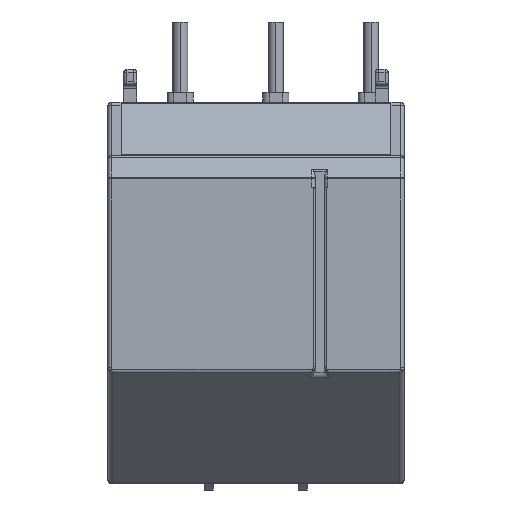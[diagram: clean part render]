
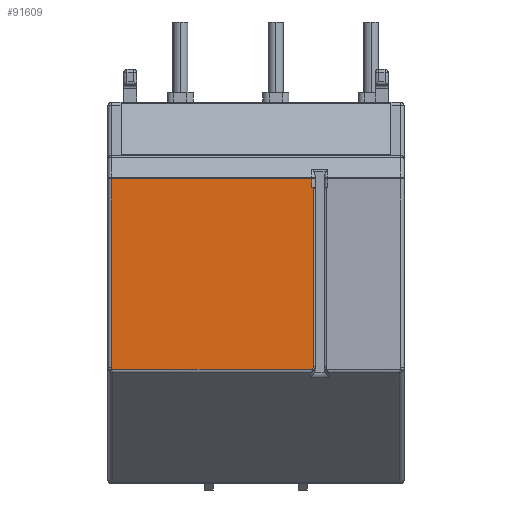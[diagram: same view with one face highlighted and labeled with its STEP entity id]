
A CAD part, front view. The second image highlights one B-rep face of the part: STEP entity #91609.
In plain terms, the highlighted planar face has unit normal (0, -1, 0).
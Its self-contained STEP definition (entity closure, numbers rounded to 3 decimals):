
#7681=DIRECTION('',(0.,0.,-1.));
#7682=VECTOR('',#7681,28.704);
#7683=CARTESIAN_POINT('',(0.5,-77.5,30.664));
#7684=LINE('',#7683,#7682);
#7706=CARTESIAN_POINT('',(0.5,-77.5,
1.959));
#16133=CARTESIAN_POINT('',(31.2,-77.5,29.4));
#16249=DIRECTION('',(-1.,0.,0.));
#16250=VECTOR('',#16249,30.5);
#16251=CARTESIAN_POINT('',(31.,-77.5,30.664));
#16252=LINE('',#16251,#16250);
#16253=DIRECTION('',(0.,0.,1.));
#16254=VECTOR('',#16253,1.264);
#16255=CARTESIAN_POINT('',(31.,-77.5,29.4));
#16256=LINE('',#16255,#16254);
#16257=DIRECTION('',(1.,0.,0.));
#16258=VECTOR('',#16257,0.2);
#16259=CARTESIAN_POINT('',(31.,-77.5,29.4));
#16260=LINE('',#16259,#16258);
#16261=CARTESIAN_POINT('',(31.2,-77.5,2.134));
#16262=CARTESIAN_POINT('',(31.2,-77.5,2.115));
#16263=CARTESIAN_POINT('',(31.199,-77.5,2.078));
#16264=CARTESIAN_POINT('',(31.193,-77.5,2.022));
#16265=CARTESIAN_POINT('',(31.183,-77.5,1.968));
#16266=CARTESIAN_POINT('',(31.17,-77.5,1.916));
#16267=CARTESIAN_POINT('',(31.153,-77.5,1.867));
#16268=CARTESIAN_POINT('',(31.134,-77.5,1.821));
#16269=CARTESIAN_POINT('',(31.112,-77.5,1.778));
#16270=CARTESIAN_POINT('',(31.096,-77.5,1.752));
#16271=CARTESIAN_POINT('',(31.088,-77.5,1.74));
#16273=DIRECTION('',(1.,0.,0.));
#16274=VECTOR('',#16273,30.526);
#16275=CARTESIAN_POINT('',(0.562,-77.5,
1.74));
#16276=LINE('',#16275,#16274);
#16277=CARTESIAN_POINT('',(0.562,-77.5,1.74));
#16278=CARTESIAN_POINT('',(0.557,-77.5,1.747));
#16279=CARTESIAN_POINT('',(0.547,-77.5,1.764));
#16280=CARTESIAN_POINT('',(0.533,-77.5,1.792));
#16281=CARTESIAN_POINT('',(0.522,-77.5,1.822));
#16282=CARTESIAN_POINT('',(0.512,-77.5,1.855));
#16283=CARTESIAN_POINT('',(0.505,-77.5,1.889));
#16284=CARTESIAN_POINT('',(0.501,-77.5,1.924));
#16285=CARTESIAN_POINT('',(0.5,-77.5,1.948));
#16286=CARTESIAN_POINT('',(0.5,-77.5,1.961));
#16974=DIRECTION('',(0.,0.,1.));
#16975=VECTOR('',#16974,27.266);
#16976=CARTESIAN_POINT('',(31.2,-77.5,2.134));
#16977=LINE('',#16976,#16975);
#56892=VERTEX_POINT('',#16133);
#59402=CARTESIAN_POINT('',(0.562,-77.5,
1.74));
#59403=CARTESIAN_POINT('',(31.088,-77.5,
1.739));
#59404=VERTEX_POINT('',#59402);
#59405=VERTEX_POINT('',#59403);
#59430=VERTEX_POINT('',#16261);
#59520=VERTEX_POINT('',#7706);
#61615=CARTESIAN_POINT('',(0.5,-77.5,30.664));
#61617=VERTEX_POINT('',#61615);
#62101=CARTESIAN_POINT('',(31.,-77.5,30.664));
#62103=VERTEX_POINT('',#62101);
#62572=CARTESIAN_POINT('',(31.,-77.5,29.4));
#62574=VERTEX_POINT('',#62572);
#91589=CARTESIAN_POINT('',(0.,-77.5,29.4));
#91590=DIRECTION('',(0.,-1.,0.));
#91591=DIRECTION('',(0.,0.,-1.));
#91592=AXIS2_PLACEMENT_3D('',#91589,#91590,#91591);
#91593=PLANE('',#91592);
#91594=ORIENTED_EDGE('',*,*,#77260,.F.);
#91596=ORIENTED_EDGE('',*,*,#91595,.F.);
#91598=ORIENTED_EDGE('',*,*,#91597,.F.);
#91600=ORIENTED_EDGE('',*,*,#91599,.T.);
#91602=ORIENTED_EDGE('',*,*,#91601,.F.);
#91603=ORIENTED_EDGE('',*,*,#91573,.T.);
#91605=ORIENTED_EDGE('',*,*,#91604,.F.);
#91606=ORIENTED_EDGE('',*,*,#77237,.T.);
#91607=EDGE_LOOP('',(#91594,#91596,#91598,#91600,#91602,#91603,#91605,#91606));
#91608=FACE_OUTER_BOUND('',#91607,.F.);
#91609=ADVANCED_FACE('',(#91608),#91593,.T.);
#16272=B_SPLINE_CURVE_WITH_KNOTS('',3,(#16261,#16262,#16263,#16264,#16265,
#16266,#16267,#16268,#16269,#16270,#16271),.UNSPECIFIED.,.F.,.F.,(4,1,1,1,1,1,1,
1,4),(0.,0.125,0.25,0.375,0.5,0.625,0.75,0.875,1.),
.UNSPECIFIED.);
#16287=B_SPLINE_CURVE_WITH_KNOTS('',3,(#16277,#16278,#16279,#16280,#16281,
#16282,#16283,#16284,#16285,#16286),.UNSPECIFIED.,.F.,.F.,(4,1,1,1,1,1,1,4),(
0.,0.143,0.286,0.429,0.571,
0.714,0.857,1.),.UNSPECIFIED.);
#77237=EDGE_CURVE('',#59404,#59520,#16287,.T.);
#77260=EDGE_CURVE('',#61617,#59520,#7684,.T.);
#91573=EDGE_CURVE('',#59430,#59405,#16272,.T.);
#91595=EDGE_CURVE('',#62103,#61617,#16252,.T.);
#91597=EDGE_CURVE('',#62574,#62103,#16256,.T.);
#91599=EDGE_CURVE('',#62574,#56892,#16260,.T.);
#91601=EDGE_CURVE('',#59430,#56892,#16977,.T.);
#91604=EDGE_CURVE('',#59404,#59405,#16276,.T.);
